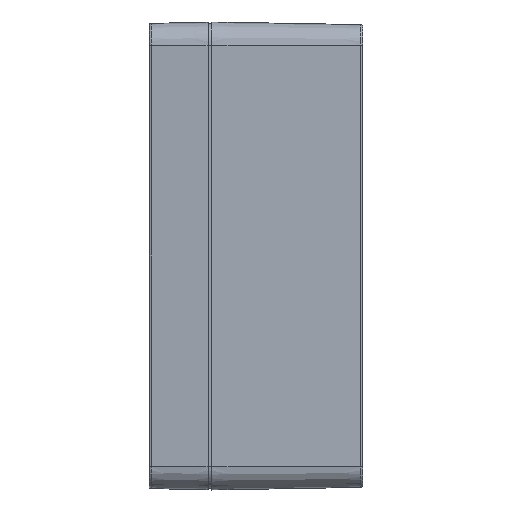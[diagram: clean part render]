
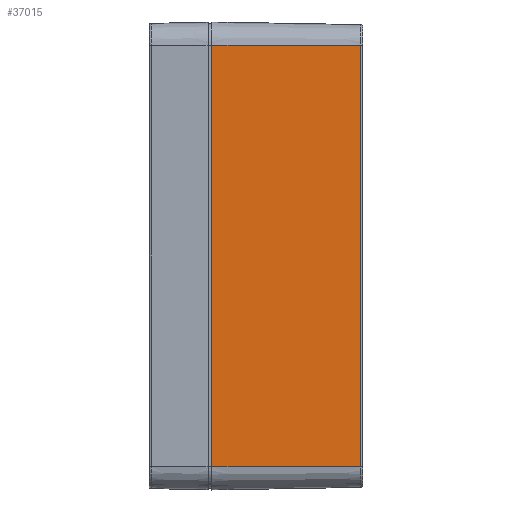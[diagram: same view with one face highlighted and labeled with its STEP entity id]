
A CAD part, left-side view. The second image highlights one B-rep face of the part: STEP entity #37015.
In plain terms, the highlighted planar face has unit normal (-1, -0.018, 0).
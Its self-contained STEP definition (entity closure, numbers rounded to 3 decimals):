
#953 = EDGE_CURVE ( 'NONE', #17390, #6264, #13677, .T. ) ;
#2057 = EDGE_CURVE ( 'NONE', #19925, #9061, #46020, .T. ) ;
#6264 = VERTEX_POINT ( 'NONE', #33794 ) ;
#6781 = EDGE_CURVE ( 'NONE', #9061, #17390, #26558, .T. ) ;
#7629 = DIRECTION ( 'NONE',  ( -0.017, 1., 0. ) ) ;
#8500 = ORIENTED_EDGE ( 'NONE', *, *, #6781, .T. ) ;
#9061 = VERTEX_POINT ( 'NONE', #42000 ) ;
#10032 = VECTOR ( 'NONE', #35882, 1000. ) ;
#12811 = FACE_OUTER_BOUND ( 'NONE', #15657, .T. ) ;
#13052 = DIRECTION ( 'NONE',  ( 0.017, -1., 0. ) ) ;
#13677 = LINE ( 'NONE', #33370, #29527 ) ;
#14152 = ORIENTED_EDGE ( 'NONE', *, *, #35255, .F. ) ;
#15657 = EDGE_LOOP ( 'NONE', ( #8500, #21372, #14152, #34591 ) ) ;
#17390 = VERTEX_POINT ( 'NONE', #38035 ) ;
#19409 = DIRECTION ( 'NONE',  ( 0., 0., 1. ) ) ;
#19634 = AXIS2_PLACEMENT_3D ( 'NONE', #48338, #28916, #13052 ) ;
#19925 = VERTEX_POINT ( 'NONE', #43057 ) ;
#21372 = ORIENTED_EDGE ( 'NONE', *, *, #953, .T. ) ;
#26558 = LINE ( 'NONE', #41648, #36055 ) ;
#28916 = DIRECTION ( 'NONE',  ( -1., -0.017, 0. ) ) ;
#29527 = VECTOR ( 'NONE', #48959, 1000. ) ;
#31773 = LINE ( 'NONE', #46623, #10032 ) ;
#33370 = CARTESIAN_POINT ( 'NONE',  ( -85.483, -1., 54.5 ) ) ;
#33794 = CARTESIAN_POINT ( 'NONE',  ( -85.483, -1., -54.5 ) ) ;
#34535 = CARTESIAN_POINT ( 'NONE',  ( -84.81, -39.509, 54.5 ) ) ;
#34591 = ORIENTED_EDGE ( 'NONE', *, *, #2057, .T. ) ;
#35255 = EDGE_CURVE ( 'NONE', #19925, #6264, #31773, .T. ) ;
#35882 = DIRECTION ( 'NONE',  ( -0.017, 1., 0. ) ) ;
#36055 = VECTOR ( 'NONE', #7629, 1000. ) ;
#37015 = ADVANCED_FACE ( 'NONE', ( #12811 ), #40437, .T. ) ;
#38035 = CARTESIAN_POINT ( 'NONE',  ( -85.483, -1., 54.5 ) ) ;
#40437 = PLANE ( 'NONE',  #19634 ) ;
#41648 = CARTESIAN_POINT ( 'NONE',  ( -85.5, 0., 54.5 ) ) ;
#42000 = CARTESIAN_POINT ( 'NONE',  ( -84.81, -39.509, 54.5 ) ) ;
#43057 = CARTESIAN_POINT ( 'NONE',  ( -84.81, -39.509, -54.5 ) ) ;
#46020 = LINE ( 'NONE', #34535, #46393 ) ;
#46393 = VECTOR ( 'NONE', #19409, 1000. ) ;
#46623 = CARTESIAN_POINT ( 'NONE',  ( -85.5, 0., -54.5 ) ) ;
#48338 = CARTESIAN_POINT ( 'NONE',  ( -85.5, 0., 54.5 ) ) ;
#48959 = DIRECTION ( 'NONE',  ( 0., 0., -1. ) ) ;
